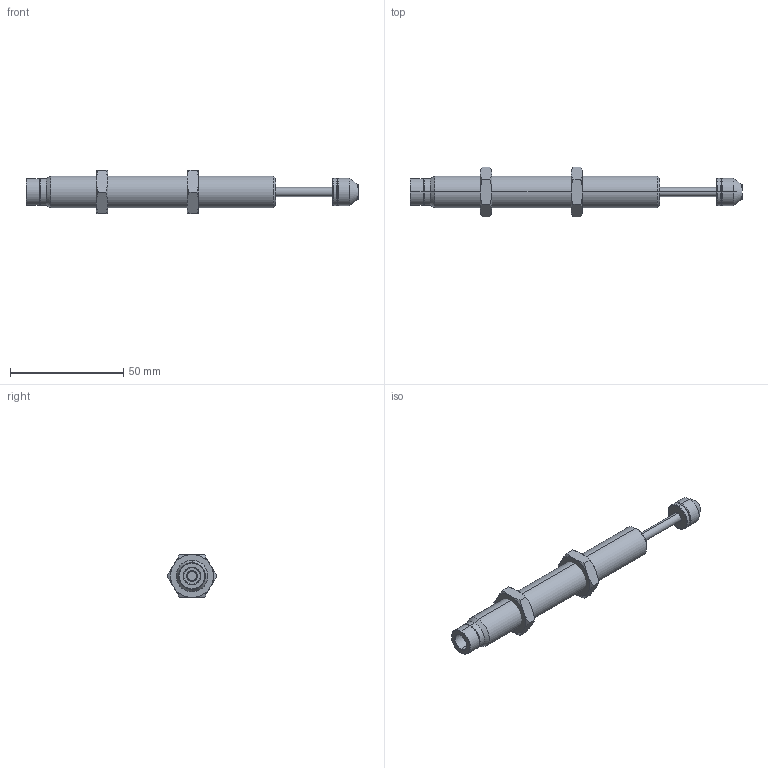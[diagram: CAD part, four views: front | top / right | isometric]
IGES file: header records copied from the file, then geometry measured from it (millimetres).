
Start section: SolidWorks IGES file using analytic representation for surfaces
Global section: file name: D:\PRT跡宒\AC\AC1425.IGS,1; native system: 5HSolidWorks 2013; preprocessor: SolidWorks 2013; author: Administrator; date: 160406.151919; units: inch
Bounding box: 146.3 x 21.94 x 19 mm (x, y, z)
Surface area: 8212.4 mm2 (no closed solid volume)
Topology: 0 solids, 0 shells, 99 faces, 1488 edges, 1488 vertices
Faces by surface type: revolution 74, bspline 25
